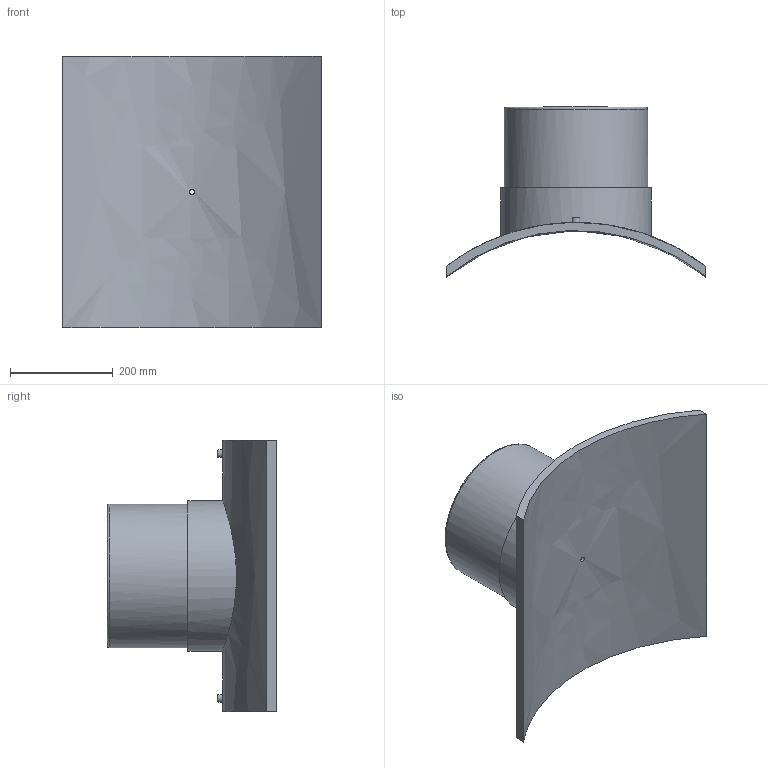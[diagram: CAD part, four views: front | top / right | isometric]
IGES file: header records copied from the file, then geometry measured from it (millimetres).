
Global section: file name: 495803800280T; native system: Autodesk Inventor 2019; preprocessor: unknown; author: KIM; date: 20240404.115739; units: millimetre
Bounding box: 505 x 330.77 x 530 mm (x, y, z)
Volume: 10338804.9 mm3; surface area: 1001057.4 mm2
Topology: 1 solids, 1 shells, 29 faces, 60 edges, 43 vertices
Faces by surface type: bspline 29
